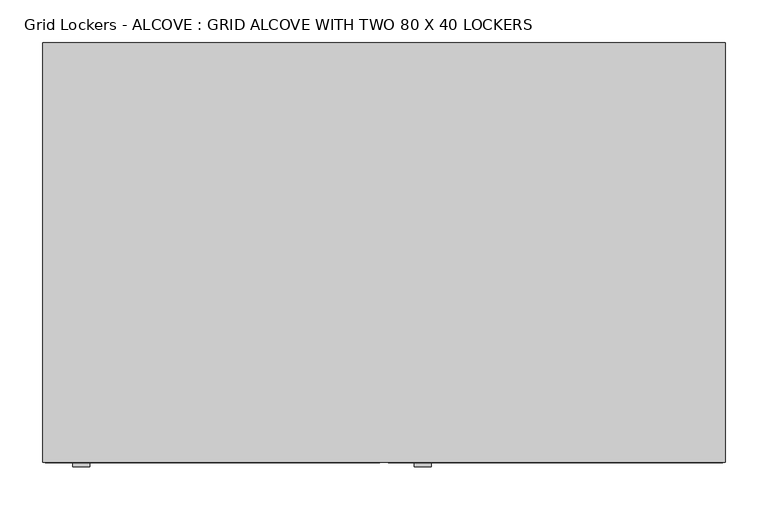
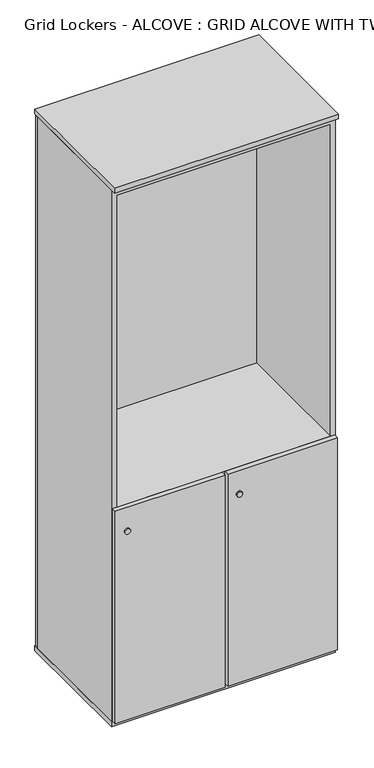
"""IFC4 building model written with IfcOpenShell, lengths in millimetres: furniture geometry, Grid Lockers - ALCOVE : GRID ALCOVE WITH TWO 80 X 40 LOCKERS."""

from ifc_helpers import new_model, si_unit, point, frame, frame_2d, origin, origin_with_axes, place, context, project, spatial, polyline, circle_curve, trimmed, segment, composite_curve, outline, extrude, source, transform, mapped, element, save


def grid_lockers_alcove_grid_alcove_with_two_80_x_40_lockers_ea2365ca(model_context):
    return source(origin(), model_context, "Body", "SweptSolid", [
        extrude(outline(composite_curve([segment(trimmed(circle_curve(frame_2d((744.6955358, 445.2953222)), 10.0), [point((744.6955358, 435.2953222))], [point((744.6955358, 455.2953222))], False, "CARTESIAN"), True, "CONTINUOUS"), segment(trimmed(circle_curve(frame_2d((744.6955358, 445.2953222)), 10.0), [point((744.6955358, 455.2953222))], [point((744.6955358, 435.2953222))], False, "CARTESIAN"), True, "CONTINUOUS")], self_intersect=False)), frame((0.0, -496.9830421, 0.0), z_axis=(0.0, 1.0, 0.0), x_axis=(0.0, 0.0, 1.0)), (0.0, 0.0, 1.0), 24.9830421),
        extrude(outline(composite_curve([segment(trimmed(circle_curve(frame_2d((744.6955358, 45.2953222)), 10.0), [point((744.6955358, 35.2953222))], [point((744.6955358, 55.2953222))], False, "CARTESIAN"), True, "CONTINUOUS"), segment(trimmed(circle_curve(frame_2d((744.6955358, 45.2953222)), 10.0), [point((744.6955358, 55.2953222))], [point((744.6955358, 35.2953222))], False, "CARTESIAN"), True, "CONTINUOUS")], self_intersect=False)), frame((0.0, -496.9830421, 0.0), z_axis=(0.0, 1.0, 0.0), x_axis=(0.0, 0.0, 1.0)), (0.0, 0.0, 1.0), 24.9830421),
        extrude(outline(polyline([(782.0, -473.9830421), (18.0, -473.9830421), (18.0, -18.0), (782.0, -18.0), (782.0, -473.9830421)])), frame((0.0, 0.0, 814.0), z_axis=(0.0, 0.0, 1.0), x_axis=(1.0, 0.0, 0.0)), (0.0, 0.0, 1.0), 18.0),
        extrude(outline(composite_curve([segment(trimmed(circle_curve(frame_2d((750.0, -50.0)), 15.0), [point((735.0, -50.0))], [point((765.0, -50.0))], False, "CARTESIAN"), True, "CONTINUOUS"), segment(trimmed(circle_curve(frame_2d((750.0, -50.0)), 15.0), [point((765.0, -50.0))], [point((735.0, -50.0))], False, "CARTESIAN"), True, "CONTINUOUS")], self_intersect=False)), origin_with_axes(), (0.0, 0.0, 1.0), 10.0),
        extrude(outline(composite_curve([segment(trimmed(circle_curve(frame_2d((50.0, -50.0)), 15.0), [point((35.0, -50.0))], [point((65.0, -50.0))], False, "CARTESIAN"), True, "CONTINUOUS"), segment(trimmed(circle_curve(frame_2d((50.0, -50.0)), 15.0), [point((65.0, -50.0))], [point((35.0, -50.0))], False, "CARTESIAN"), True, "CONTINUOUS")], self_intersect=False)), origin_with_axes(), (0.0, 0.0, 1.0), 10.0),
        extrude(outline(composite_curve([segment(trimmed(circle_curve(frame_2d((50.0, -440.0)), 15.0), [point((35.0, -440.0))], [point((65.0, -440.0))], False, "CARTESIAN"), True, "CONTINUOUS"), segment(trimmed(circle_curve(frame_2d((50.0, -440.0)), 15.0), [point((65.0, -440.0))], [point((35.0, -440.0))], False, "CARTESIAN"), True, "CONTINUOUS")], self_intersect=False)), origin_with_axes(), (0.0, 0.0, 1.0), 10.0),
        extrude(outline(composite_curve([segment(trimmed(circle_curve(frame_2d((750.0, -440.0)), 15.0), [point((735.0, -440.0))], [point((765.0, -440.0))], False, "CARTESIAN"), True, "CONTINUOUS"), segment(trimmed(circle_curve(frame_2d((750.0, -440.0)), 15.0), [point((765.0, -440.0))], [point((735.0, -440.0))], False, "CARTESIAN"), True, "CONTINUOUS")], self_intersect=False)), origin_with_axes(), (0.0, 0.0, 1.0), 10.0),
        extrude(outline(polyline([(800.0, -473.9830421), (0.0, -473.9830421), (0.0, 0.0), (800.0, 0.0), (800.0, -473.9830421)])), frame((0.0, 0.0, 10.0), z_axis=(0.0, 0.0, 1.0), x_axis=(1.0, 0.0, 0.0)), (0.0, 0.0, 1.0), 18.0),
        extrude(outline(polyline([(800.0, -491.9830421), (0.0, -491.9830421), (0.0, 0.0), (800.0, 0.0), (800.0, -491.9830421)])), frame((0.0, 0.0, 2034.0), z_axis=(0.0, 0.0, 1.0), x_axis=(1.0, 0.0, 0.0)), (0.0, 0.0, 1.0), 18.0),
        extrude(outline(polyline([(2034.0, 800.0), (2034.0, 0.0), (28.0, 0.0), (28.0, 18.0), (2009.0, 18.0), (2009.0, 782.0), (28.0, 782.0), (28.0, 800.0), (2034.0, 800.0)])), frame((0.0, -473.9830421, 0.0), z_axis=(0.0, 1.0, 0.0), x_axis=(0.0, 0.0, 1.0)), (0.0, 0.0, 1.0), 455.9830421),
        extrude(outline(polyline([(797.0, 0.0), (797.0, -18.0), (3.0, -18.0), (3.0, 0.0), (797.0, 0.0)])), frame((0.0, 0.0, 18.0), z_axis=(0.0, 0.0, 1.0), x_axis=(1.0, 0.0, 0.0)), (0.0, 0.0, 1.0), 2010.0),
        extrude(outline(polyline([(395.0, -491.9830421), (3.0, -491.9830421), (3.0, -473.9830421), (395.0, -473.9830421), (395.0, -491.9830421)])), frame((0.0, 0.0, 32.0), z_axis=(0.0, 0.0, 1.0), x_axis=(1.0, 0.0, 0.0)), (0.0, 0.0, 1.0), 800.0),
        extrude(outline(polyline([(797.0, -491.9830421), (405.0, -491.9830421), (405.0, -473.9830421), (797.0, -473.9830421), (797.0, -491.9830421)])), frame((0.0, 0.0, 32.0), z_axis=(0.0, 0.0, 1.0), x_axis=(1.0, 0.0, 0.0)), (0.0, 0.0, 1.0), 800.0),
    ])


if __name__ == "__main__":
    model = new_model("IFC4")
    model_context = context("Model", 3, world=origin())
    ifc_project = project(units=[si_unit("LENGTHUNIT", "METRE", prefix="MILLI")], contexts=[model_context])
    site = spatial("IfcSite", under=ifc_project)
    building = spatial("IfcBuilding", under=site)
    placement = place(None, origin())
    grid_lockers_alcove_grid_alcove_with_two_80_x_40_lockers_shape = grid_lockers_alcove_grid_alcove_with_two_80_x_40_lockers_ea2365ca(model_context)
    element("IfcFurniture", 1, ObjectType="Grid Lockers - ALCOVE : GRID ALCOVE WITH TWO 80 X 40 LOCKERS", at=placement, inside=building, context=model_context, shape_type="MappedRepresentation", body=[
        mapped(grid_lockers_alcove_grid_alcove_with_two_80_x_40_lockers_shape, transform((0.0, 0.0, 0.0), x_axis=(1.0, 0.0, 0.0), y_axis=(0.0, 1.0, 0.0), z_axis=(0.0, 0.0, 1.0))),
    ])
    save(model, "model.ifc")
